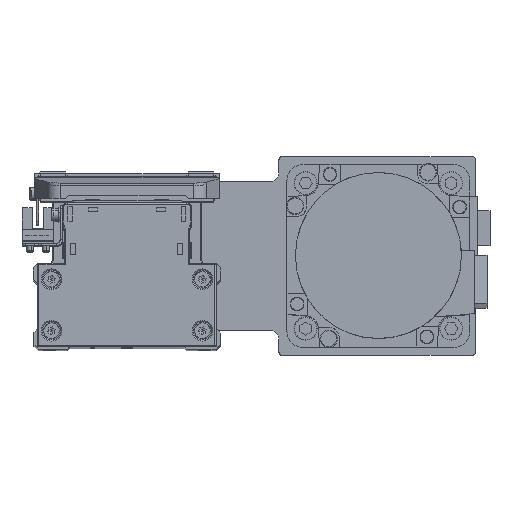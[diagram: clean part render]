
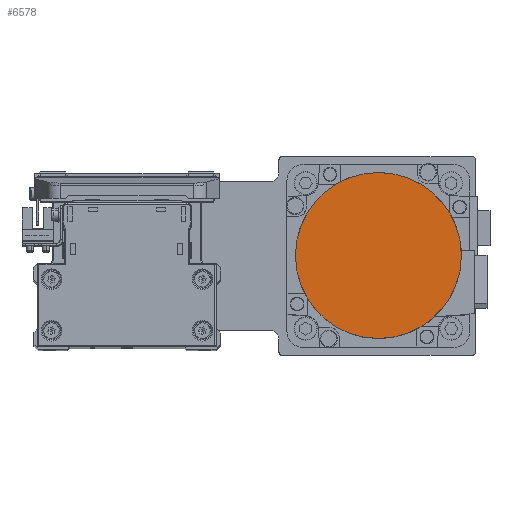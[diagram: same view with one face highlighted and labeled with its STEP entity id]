
A CAD part, top view. The second image highlights one B-rep face of the part: STEP entity #6578.
In plain terms, the highlighted planar face has unit normal (0, 0, 1) as drawn and (0, 0, -1) by its records, which use the part's own axes.
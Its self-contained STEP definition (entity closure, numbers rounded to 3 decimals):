
#2457 = DIRECTION ( 'NONE',  ( 0., -1., 0. ) ) ;
#2961 = CIRCLE ( 'NONE', #8030, 36.3 ) ;
#3432 = DIRECTION ( 'NONE',  ( 0., 0., 1. ) ) ;
#3864 = DIRECTION ( 'NONE',  ( 0., 1., 0. ) ) ;
#4206 = ORIENTED_EDGE ( 'NONE', *, *, #9999, .F. ) ;
#6396 = FACE_OUTER_BOUND ( 'NONE', #8639, .T. ) ;
#6578 = ADVANCED_FACE ( 'NONE', ( #6396 ), #18514, .F. ) ;
#6671 = VERTEX_POINT ( 'NONE', #31209 ) ;
#8030 = AXIS2_PLACEMENT_3D ( 'NONE', #17541, #29644, #2457 ) ;
#8639 = EDGE_LOOP ( 'NONE', ( #4206, #32068 ) ) ;
#9999 = EDGE_CURVE ( 'NONE', #6671, #23528, #31765, .T. ) ;
#11863 = AXIS2_PLACEMENT_3D ( 'NONE', #30608, #3432, #15539 ) ;
#13623 = EDGE_CURVE ( 'NONE', #23528, #6671, #2961, .T. ) ;
#14613 = AXIS2_PLACEMENT_3D ( 'NONE', #18970, #31060, #3864 ) ;
#15539 = DIRECTION ( 'NONE',  ( 1., 0., 0. ) ) ;
#17541 = CARTESIAN_POINT ( 'NONE',  ( 0., 0., -122.2 ) ) ;
#18514 = PLANE ( 'NONE',  #11863 ) ;
#18970 = CARTESIAN_POINT ( 'NONE',  ( 0., 0., -122.2 ) ) ;
#23528 = VERTEX_POINT ( 'NONE', #29150 ) ;
#29150 = CARTESIAN_POINT ( 'NONE',  ( 0., -36.3, -122.2 ) ) ;
#29644 = DIRECTION ( 'NONE',  ( 0., 0., 1. ) ) ;
#30608 = CARTESIAN_POINT ( 'NONE',  ( 0., 0., -122.2 ) ) ;
#31060 = DIRECTION ( 'NONE',  ( 0., 0., 1. ) ) ;
#31209 = CARTESIAN_POINT ( 'NONE',  ( 0., 36.3, -122.2 ) ) ;
#31765 = CIRCLE ( 'NONE', #14613, 36.3 ) ;
#32068 = ORIENTED_EDGE ( 'NONE', *, *, #13623, .F. ) ;
